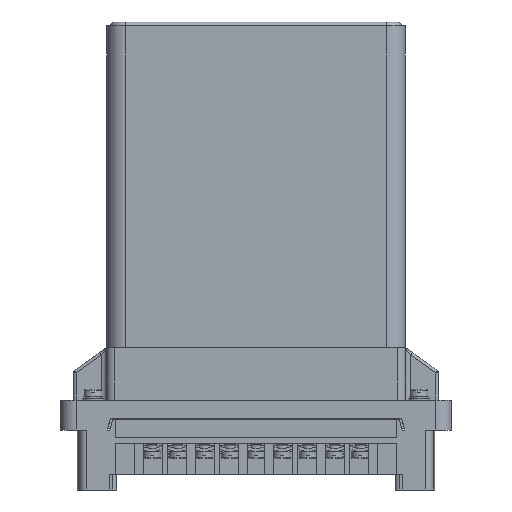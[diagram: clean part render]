
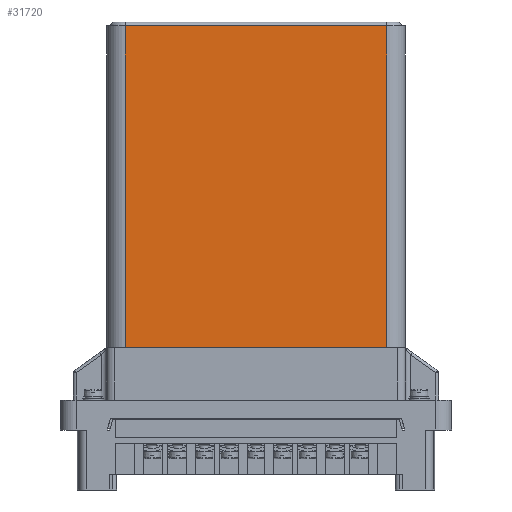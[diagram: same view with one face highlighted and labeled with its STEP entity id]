
A CAD part, left-side view. The second image highlights one B-rep face of the part: STEP entity #31720.
In plain terms, the highlighted planar face has unit normal (-1, 0, 0).
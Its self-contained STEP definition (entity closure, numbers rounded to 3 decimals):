
#31720=ADVANCED_FACE('',(#82476),#82478,.T.);
#82476=FACE_BOUND('',#82477,.T.);
#82477=EDGE_LOOP('',(#126013,#126014,#126015,#126016));
#82478=PLANE('',#82479);
#82479=AXIS2_PLACEMENT_3D('',#82480,#82481,#82482);
#82480=CARTESIAN_POINT('',(-32.15,50.15,31.5));
#82481=DIRECTION('',(-1.,0.,0.));
#82482=DIRECTION('',(0.,-1.,0.));
#126013=ORIENTED_EDGE('',*,*,#145289,.T.);
#126014=ORIENTED_EDGE('',*,*,#149329,.T.);
#126015=ORIENTED_EDGE('',*,*,#149330,.F.);
#126016=ORIENTED_EDGE('',*,*,#149331,.F.);
#145289=EDGE_CURVE('',#166130,#166128,#166131,.T.);
#149329=EDGE_CURVE('',#166128,#172672,#172674,.T.);
#149330=EDGE_CURVE('',#172675,#172672,#172676,.T.);
#149331=EDGE_CURVE('',#166130,#172675,#172677,.T.);
#166128=VERTEX_POINT('',#206457);
#166130=VERTEX_POINT('',#206462);
#166131=LINE('',#206463,#206464);
#172672=VERTEX_POINT('',#221811);
#172674=LINE('',#221816,#221817);
#172675=VERTEX_POINT('',#221819);
#172676=LINE('',#221820,#221821);
#172677=LINE('',#221823,#221824);
#206457=CARTESIAN_POINT('',(-32.15,-50.15,31.5));
#206462=CARTESIAN_POINT('',(-32.15,50.15,31.5));
#206463=CARTESIAN_POINT('',(-32.15,50.15,31.5));
#206464=VECTOR('',#206465,1.);
#206465=DIRECTION('',(0.,-1.,0.));
#221811=CARTESIAN_POINT('',(-32.15,-50.15,155.));
#221816=CARTESIAN_POINT('',(-32.15,-50.15,31.5));
#221817=VECTOR('',#221818,1.);
#221818=DIRECTION('',(0.,0.,1.));
#221819=CARTESIAN_POINT('',(-32.15,50.15,155.));
#221820=CARTESIAN_POINT('',(-32.15,50.15,155.));
#221821=VECTOR('',#221822,1.);
#221822=DIRECTION('',(0.,-1.,0.));
#221823=CARTESIAN_POINT('',(-32.15,50.15,31.5));
#221824=VECTOR('',#221825,1.);
#221825=DIRECTION('',(0.,0.,1.));
